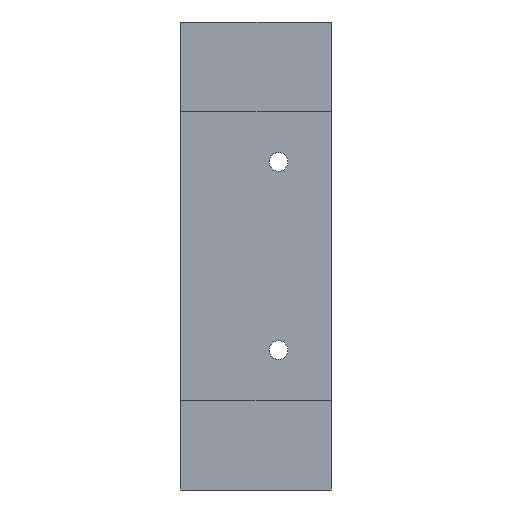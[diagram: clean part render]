
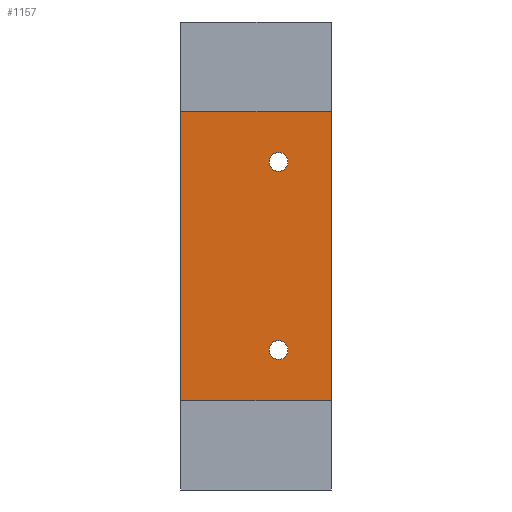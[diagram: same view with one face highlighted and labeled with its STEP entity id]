
A CAD part, front view. The second image highlights one B-rep face of the part: STEP entity #1157.
In plain terms, the highlighted planar face has unit normal (0, -1, 0).
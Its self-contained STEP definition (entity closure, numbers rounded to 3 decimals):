
#2 = CARTESIAN_POINT ( 'NONE',  ( 26., -1.5, 22.5 ) ) ;
#253 = DIRECTION ( 'NONE',  ( 0., 0., -1. ) ) ;
#412 = EDGE_LOOP ( 'NONE', ( #2450, #3183, #9236, #2437 ) ) ;
#461 = VECTOR ( 'NONE', #1397, 1000. ) ;
#821 = LINE ( 'NONE', #4593, #7826 ) ;
#1156 = CARTESIAN_POINT ( 'NONE',  ( 40., -1.5, 43.25 ) ) ;
#1157 = ADVANCED_FACE ( 'NONE', ( #1272, #7889, #4104 ), #10565, .T. ) ;
#1272 = FACE_OUTER_BOUND ( 'NONE', #412, .T. ) ;
#1397 = DIRECTION ( 'NONE',  ( 0., 0., 1. ) ) ;
#1433 = EDGE_CURVE ( 'NONE', #8487, #8487, #4005, .T. ) ;
#1655 = AXIS2_PLACEMENT_3D ( 'NONE', #10604, #5889, #253 ) ;
#2350 = EDGE_CURVE ( 'NONE', #9795, #2410, #5979, .T. ) ;
#2410 = VERTEX_POINT ( 'NONE', #4553 ) ;
#2437 = ORIENTED_EDGE ( 'NONE', *, *, #11904, .F. ) ;
#2450 = ORIENTED_EDGE ( 'NONE', *, *, #7752, .T. ) ;
#3183 = ORIENTED_EDGE ( 'NONE', *, *, #7337, .F. ) ;
#3219 = VECTOR ( 'NONE', #11079, 1000. ) ;
#3786 = DIRECTION ( 'NONE',  ( 0., 0., -1. ) ) ;
#4005 = CIRCLE ( 'NONE', #10942, 2.5 ) ;
#4104 = FACE_BOUND ( 'NONE', #9756, .T. ) ;
#4161 = DIRECTION ( 'NONE',  ( 0., -1., 0. ) ) ;
#4553 = CARTESIAN_POINT ( 'NONE',  ( 0., -1.5, 38.5 ) ) ;
#4593 = CARTESIAN_POINT ( 'NONE',  ( -20., -1.5, -38.5 ) ) ;
#5161 = EDGE_LOOP ( 'NONE', ( #5425 ) ) ;
#5306 = VERTEX_POINT ( 'NONE', #11950 ) ;
#5425 = ORIENTED_EDGE ( 'NONE', *, *, #7347, .T. ) ;
#5889 = DIRECTION ( 'NONE',  ( 0., 1., 0. ) ) ;
#5911 = DIRECTION ( 'NONE',  ( 0., 0., -1. ) ) ;
#5979 = LINE ( 'NONE', #9711, #461 ) ;
#7172 = VECTOR ( 'NONE', #11529, 1000. ) ;
#7337 = EDGE_CURVE ( 'NONE', #2410, #9767, #10485, .T. ) ;
#7347 = EDGE_CURVE ( 'NONE', #7429, #7429, #12147, .T. ) ;
#7405 = ORIENTED_EDGE ( 'NONE', *, *, #1433, .T. ) ;
#7429 = VERTEX_POINT ( 'NONE', #2 ) ;
#7622 = CARTESIAN_POINT ( 'NONE',  ( 40., -1.5, 38.5 ) ) ;
#7752 = EDGE_CURVE ( 'NONE', #5306, #9767, #12069, .T. ) ;
#7826 = VECTOR ( 'NONE', #10916, 1000. ) ;
#7889 = FACE_BOUND ( 'NONE', #5161, .T. ) ;
#8487 = VERTEX_POINT ( 'NONE', #8615 ) ;
#8615 = CARTESIAN_POINT ( 'NONE',  ( 26., -1.5, -27.5 ) ) ;
#8625 = CARTESIAN_POINT ( 'NONE',  ( 0., -1.5, -38.5 ) ) ;
#9236 = ORIENTED_EDGE ( 'NONE', *, *, #2350, .F. ) ;
#9316 = CARTESIAN_POINT ( 'NONE',  ( 26., -1.5, -25. ) ) ;
#9711 = CARTESIAN_POINT ( 'NONE',  ( 0., -1.5, 43.25 ) ) ;
#9754 = AXIS2_PLACEMENT_3D ( 'NONE', #1156, #4161, #5911 ) ;
#9756 = EDGE_LOOP ( 'NONE', ( #7405 ) ) ;
#9767 = VERTEX_POINT ( 'NONE', #7622 ) ;
#9795 = VERTEX_POINT ( 'NONE', #8625 ) ;
#10332 = CARTESIAN_POINT ( 'NONE',  ( 40., -1.5, 43.25 ) ) ;
#10429 = DIRECTION ( 'NONE',  ( 0., 1., 0. ) ) ;
#10485 = LINE ( 'NONE', #11649, #7172 ) ;
#10565 = PLANE ( 'NONE',  #9754 ) ;
#10604 = CARTESIAN_POINT ( 'NONE',  ( 26., -1.5, 25. ) ) ;
#10916 = DIRECTION ( 'NONE',  ( -1., 0., 0. ) ) ;
#10942 = AXIS2_PLACEMENT_3D ( 'NONE', #9316, #10429, #3786 ) ;
#11079 = DIRECTION ( 'NONE',  ( 0., 0., 1. ) ) ;
#11529 = DIRECTION ( 'NONE',  ( 1., 0., 0. ) ) ;
#11649 = CARTESIAN_POINT ( 'NONE',  ( -20., -1.5, 38.5 ) ) ;
#11904 = EDGE_CURVE ( 'NONE', #5306, #9795, #821, .T. ) ;
#11950 = CARTESIAN_POINT ( 'NONE',  ( 40., -1.5, -38.5 ) ) ;
#12069 = LINE ( 'NONE', #10332, #3219 ) ;
#12147 = CIRCLE ( 'NONE', #1655, 2.5 ) ;
